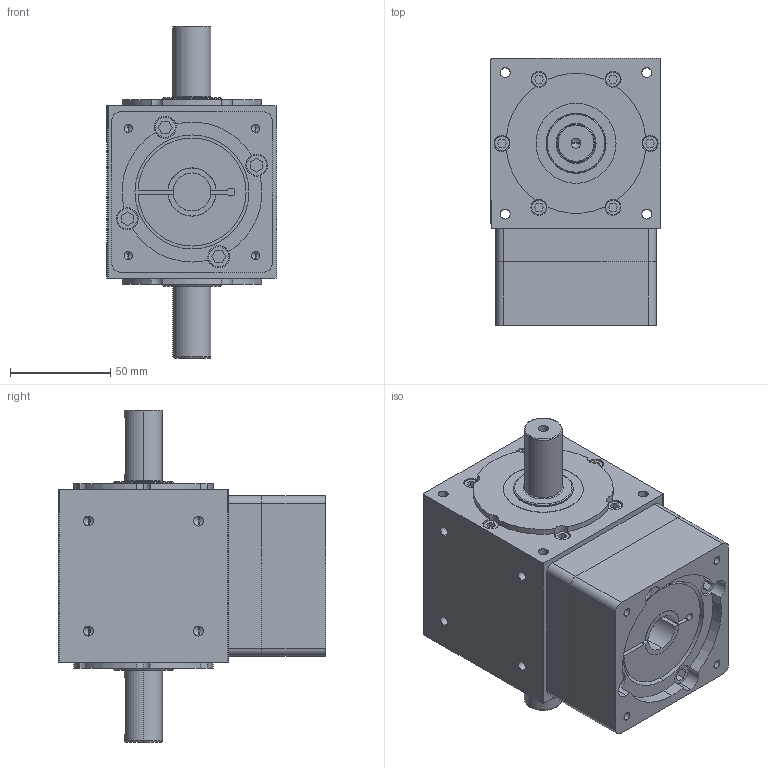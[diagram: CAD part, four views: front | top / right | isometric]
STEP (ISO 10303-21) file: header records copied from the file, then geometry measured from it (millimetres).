
FILE_DESCRIPTION (( 'STEP AP203' ), '1' );
FILE_NAME ('AT85-S2Ä£ÐÍ£¨19-35 70-3 4-5.STEP', '2021-08-27T03:29:47', ( '' ), ( '' ), 'SwSTEP 2.0', 'SolidWorks 2016', '' );
FILE_SCHEMA (( 'CONFIG_CONTROL_DESIGN' ));
Length unit declared in the file: millimetre
Products named in the file (1): AT85-S2模型（19-35 70-3 4-5
Bounding box: 85 x 133.5 x 166 mm (x, y, z)
Volume: 916810.8 mm3; surface area: 103988 mm2
Topology: 2 solids, 2 shells, 433 faces, 1063 edges, 680 vertices
Faces by surface type: plane 204, cylinder 189, cone 28, torus 12
Entity records: 12978 total; most frequent: CARTESIAN_POINT 2363, DIRECTION 2321, ORIENTED_EDGE 2086, EDGE_CURVE 1043, AXIS2_PLACEMENT_3D 858, VERTEX_POINT 680, LINE 605, VECTOR 605
